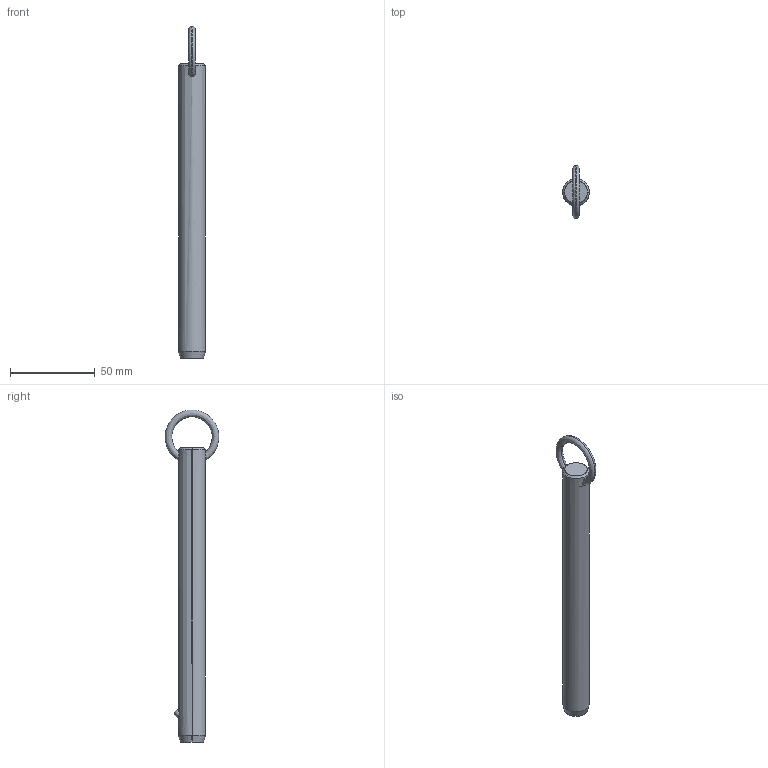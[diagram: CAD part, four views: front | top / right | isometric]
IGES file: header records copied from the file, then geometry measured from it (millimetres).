
Start section: SolidWorks IGES file using analytic representation for surfaces
Global section: file name: C:\Users\liam_\OneDrive\Documents\WORK\Work for WixRoyd\Job Files\J-00019 - Matt Davis CAD Checking\04. CAD Drawings\automotion20190605\P1250.2_v2\P1250.2_v2_20190729_IGES\P1250.062-570.igs; native system: SolidWorks 2017; preprocessor: SolidWorks 2017; author: liam_; date: 190729.234052; units: millimetre
Bounding box: 15.8 x 31.69 x 195.49 mm (x, y, z)
Surface area: 9776 mm2 (no closed solid volume)
Topology: 0 solids, 0 shells, 12 faces, 292 edges, 290 vertices
Faces by surface type: revolution 8, bspline 4
